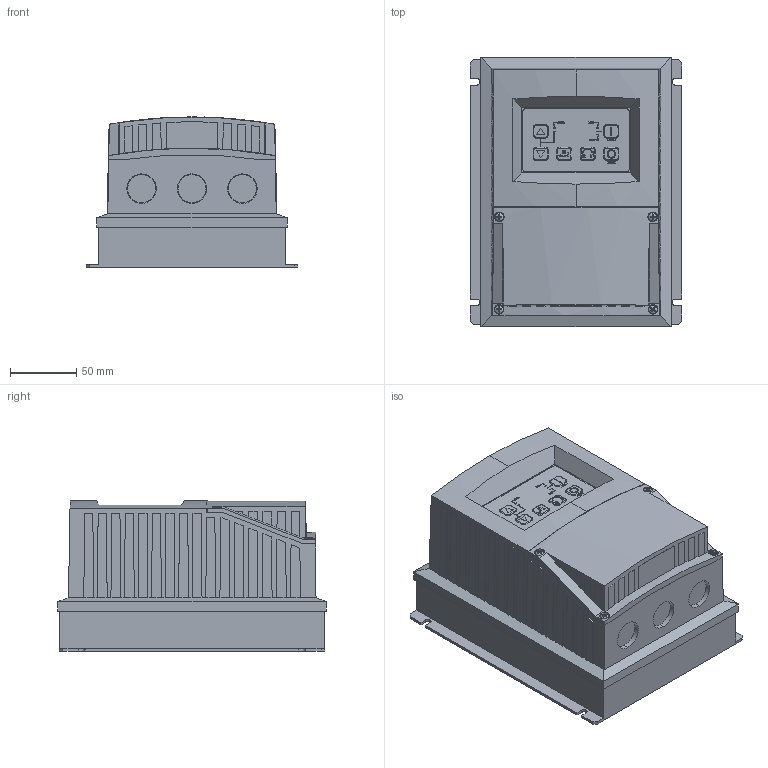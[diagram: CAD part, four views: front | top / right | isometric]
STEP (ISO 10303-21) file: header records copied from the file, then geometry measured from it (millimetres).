
FILE_DESCRIPTION (( 'STEP AP214' ), '1' );
FILE_NAME ('R1.STEP', '2020-11-16T14:20:31', ( '' ), ( '' ), 'SwSTEP 2.0', 'SolidWorks 2019', '' );
FILE_SCHEMA (( 'AUTOMOTIVE_DESIGN' ));
Length unit declared in the file: inch
Products named in the file (1): R1
Bounding box: 159.51 x 203.2 x 113.54 mm (x, y, z)
Volume: 2171175.5 mm3; surface area: 243889 mm2
Topology: 7 solids, 16 shells, 2603 faces, 6738 edges, 4424 vertices
Faces by surface type: plane 1903, cylinder 366, bspline 229, torus 53, cone 44, sphere 8
Entity records: 112421 total; most frequent: CARTESIAN_POINT 28056, ORIENTED_EDGE 13476, DIRECTION 11783, EDGE_CURVE 6738, VECTOR 5165, LINE 5165, VERTEX_POINT 4424, AXIS2_PLACEMENT_3D 3309
